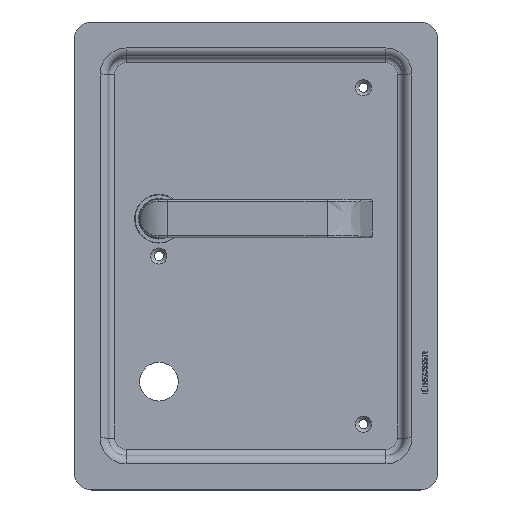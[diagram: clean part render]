
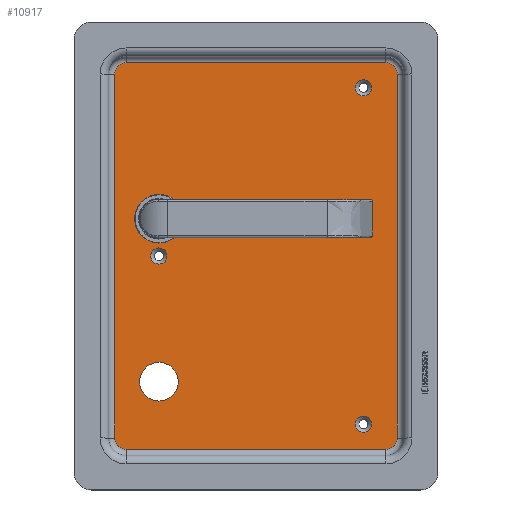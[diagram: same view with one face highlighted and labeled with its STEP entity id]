
A CAD part, top view. The second image highlights one B-rep face of the part: STEP entity #10917.
In plain terms, the highlighted planar face has unit normal (0, 0, 1).
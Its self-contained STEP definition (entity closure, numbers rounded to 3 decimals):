
#689=LINE('',#14662,#1642);
#690=LINE('',#14670,#1643);
#692=LINE('',#14682,#1645);
#695=LINE('',#14694,#1648);
#1642=VECTOR('',#12375,10.);
#1643=VECTOR('',#12386,10.);
#1645=VECTOR('',#12400,10.);
#1648=VECTOR('',#12415,10.);
#2678=FACE_BOUND('',#3475,.T.);
#2679=FACE_BOUND('',#3476,.T.);
#2680=FACE_BOUND('',#3477,.T.);
#2681=FACE_BOUND('',#3478,.T.);
#2682=FACE_BOUND('',#3479,.T.);
#2828=FACE_OUTER_BOUND('',#3474,.T.);
#3474=EDGE_LOOP('',(#7328,#7329,#7330,#7331,#7332,#7333,#7334,#7335));
#3475=EDGE_LOOP('',(#7336));
#3476=EDGE_LOOP('',(#7337));
#3477=EDGE_LOOP('',(#7338));
#3478=EDGE_LOOP('',(#7339));
#3479=EDGE_LOOP('',(#7340));
#4115=CIRCLE('',#11546,6.5);
#4118=CIRCLE('',#11551,6.5);
#4121=CIRCLE('',#11556,6.5);
#4125=CIRCLE('',#11562,6.5);
#4170=CIRCLE('',#11663,4.65);
#4171=CIRCLE('',#11665,4.65);
#4172=CIRCLE('',#11667,14.);
#4173=CIRCLE('',#11668,11.15);
#4174=CIRCLE('',#11669,4.65);
#4319=VERTEX_POINT('',#14655);
#4320=VERTEX_POINT('',#14657);
#4321=VERTEX_POINT('',#14661);
#4322=VERTEX_POINT('',#14665);
#4323=VERTEX_POINT('',#14669);
#4325=VERTEX_POINT('',#14675);
#4327=VERTEX_POINT('',#14681);
#4329=VERTEX_POINT('',#14687);
#4503=VERTEX_POINT('',#15255);
#4504=VERTEX_POINT('',#15258);
#4505=VERTEX_POINT('',#15261);
#4506=VERTEX_POINT('',#15263);
#4507=VERTEX_POINT('',#15265);
#5374=EDGE_CURVE('',#4320,#4319,#4115,.T.);
#5376=EDGE_CURVE('',#4321,#4320,#689,.T.);
#5378=EDGE_CURVE('',#4322,#4321,#4118,.T.);
#5380=EDGE_CURVE('',#4323,#4322,#690,.T.);
#5383=EDGE_CURVE('',#4325,#4323,#4121,.T.);
#5386=EDGE_CURVE('',#4327,#4325,#692,.T.);
#5389=EDGE_CURVE('',#4329,#4327,#4125,.T.);
#5393=EDGE_CURVE('',#4319,#4329,#695,.T.);
#5599=EDGE_CURVE('',#4503,#4503,#4170,.T.);
#5600=EDGE_CURVE('',#4504,#4504,#4171,.T.);
#5601=EDGE_CURVE('',#4505,#4505,#4172,.T.);
#5602=EDGE_CURVE('',#4506,#4506,#4173,.T.);
#5603=EDGE_CURVE('',#4507,#4507,#4174,.T.);
#7328=ORIENTED_EDGE('',*,*,#5393,.T.);
#7329=ORIENTED_EDGE('',*,*,#5389,.T.);
#7330=ORIENTED_EDGE('',*,*,#5386,.T.);
#7331=ORIENTED_EDGE('',*,*,#5383,.T.);
#7332=ORIENTED_EDGE('',*,*,#5380,.T.);
#7333=ORIENTED_EDGE('',*,*,#5378,.T.);
#7334=ORIENTED_EDGE('',*,*,#5376,.T.);
#7335=ORIENTED_EDGE('',*,*,#5374,.T.);
#7336=ORIENTED_EDGE('',*,*,#5601,.T.);
#7337=ORIENTED_EDGE('',*,*,#5602,.T.);
#7338=ORIENTED_EDGE('',*,*,#5600,.F.);
#7339=ORIENTED_EDGE('',*,*,#5599,.F.);
#7340=ORIENTED_EDGE('',*,*,#5603,.F.);
#9953=PLANE('',#11666);
#10917=ADVANCED_FACE('',(#2828,#2678,#2679,#2680,#2681,#2682),#9953,.F.);
#11546=AXIS2_PLACEMENT_3D('',#14658,#12369,#12370);
#11551=AXIS2_PLACEMENT_3D('',#14666,#12380,#12381);
#11556=AXIS2_PLACEMENT_3D('',#14676,#12392,#12393);
#11562=AXIS2_PLACEMENT_3D('',#14688,#12406,#12407);
#11663=AXIS2_PLACEMENT_3D('',#15256,#12713,#12714);
#11665=AXIS2_PLACEMENT_3D('',#15259,#12717,#12718);
#11666=AXIS2_PLACEMENT_3D('',#15260,#12719,#12720);
#11667=AXIS2_PLACEMENT_3D('',#15262,#12721,#12722);
#11668=AXIS2_PLACEMENT_3D('',#15264,#12723,#12724);
#11669=AXIS2_PLACEMENT_3D('',#15266,#12725,#12726);
#12369=DIRECTION('center_axis',(0.,0.,
1.));
#12370=DIRECTION('ref_axis',(-0.707,-0.707,0.));
#12375=DIRECTION('',(0.,-1.,0.));
#12380=DIRECTION('center_axis',(0.,0.,
1.));
#12381=DIRECTION('ref_axis',(-0.707,0.707,0.));
#12386=DIRECTION('',(-1.,0.,0.));
#12392=DIRECTION('center_axis',(0.,0.,
1.));
#12393=DIRECTION('ref_axis',(0.707,0.707,0.));
#12400=DIRECTION('',(0.,1.,0.));
#12406=DIRECTION('center_axis',(0.,0.,
1.));
#12407=DIRECTION('ref_axis',(0.707,-0.707,0.));
#12415=DIRECTION('',(1.,0.,0.));
#12713=DIRECTION('center_axis',(0.,0.,
1.));
#12714=DIRECTION('ref_axis',(-1.,0.,0.));
#12717=DIRECTION('center_axis',(0.,0.,
1.));
#12718=DIRECTION('ref_axis',(-1.,0.,0.));
#12719=DIRECTION('center_axis',(0.,0.,
-1.));
#12720=DIRECTION('ref_axis',(-1.,0.,0.));
#12721=DIRECTION('center_axis',(0.,0.,
-1.));
#12722=DIRECTION('ref_axis',(0.,1.,0.));
#12723=DIRECTION('center_axis',(0.,0.,
-1.));
#12724=DIRECTION('ref_axis',(-1.,0.,0.));
#12725=DIRECTION('center_axis',(0.,0.,
1.));
#12726=DIRECTION('ref_axis',(-1.,0.,0.));
#14655=CARTESIAN_POINT('',(-77.269,-100.155,-5.503));
#14657=CARTESIAN_POINT('',(-83.769,-93.655,-5.503));
#14658=CARTESIAN_POINT('Origin',(-77.269,-93.655,-5.503));
#14661=CARTESIAN_POINT('',(-83.769,116.345,-5.503));
#14662=CARTESIAN_POINT('',(-83.769,63.845,-5.503));
#14665=CARTESIAN_POINT('',(-77.269,122.845,-5.503));
#14666=CARTESIAN_POINT('Origin',(-77.269,116.345,-5.503));
#14669=CARTESIAN_POINT('',(72.731,122.845,-5.503));
#14670=CARTESIAN_POINT('',(35.231,122.845,-5.503));
#14675=CARTESIAN_POINT('',(79.231,116.345,-5.503));
#14676=CARTESIAN_POINT('Origin',(72.731,116.345,-5.503));
#14681=CARTESIAN_POINT('',(79.231,-93.655,-5.503));
#14682=CARTESIAN_POINT('',(79.231,-41.155,-5.503));
#14687=CARTESIAN_POINT('',(72.731,-100.155,-5.503));
#14688=CARTESIAN_POINT('Origin',(72.731,-93.655,-5.503));
#14694=CARTESIAN_POINT('',(-39.769,-100.155,-5.503));
#15255=CARTESIAN_POINT('',(64.381,-85.655,-5.503));
#15256=CARTESIAN_POINT('Origin',(59.731,-85.655,-5.503));
#15258=CARTESIAN_POINT('',(-53.619,11.345,-5.503));
#15259=CARTESIAN_POINT('Origin',(-58.269,11.345,-5.503));
#15260=CARTESIAN_POINT('Origin',(-2.269,11.345,-5.503));
#15261=CARTESIAN_POINT('',(-58.269,18.845,-5.503));
#15262=CARTESIAN_POINT('Origin',(-58.269,32.845,-5.503));
#15263=CARTESIAN_POINT('',(-47.119,-61.155,-5.503));
#15264=CARTESIAN_POINT('Origin',(-58.269,-61.155,-5.503));
#15265=CARTESIAN_POINT('',(64.381,108.345,-5.503));
#15266=CARTESIAN_POINT('Origin',(59.731,108.345,-5.503));
